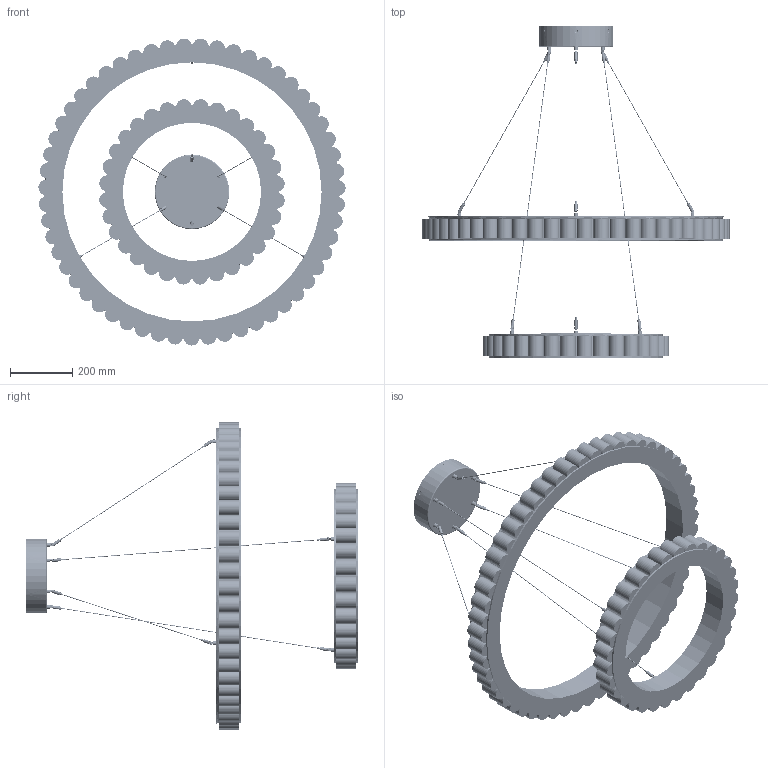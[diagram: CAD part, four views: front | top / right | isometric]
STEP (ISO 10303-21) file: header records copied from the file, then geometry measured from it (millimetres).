
FILE_DESCRIPTION (( 'STEP AP203' ), '1' );
FILE_NAME ('CTO-01-045-02_AVALON Halo chandelier with ceiling rose.STEP', '2021-04-22T11:35:23', ( '' ), ( '' ), 'SwSTEP 2.0', 'SolidWorks 2020', '' );
FILE_SCHEMA (( 'CONFIG_CONTROL_DESIGN' ));
Length unit declared in the file: millimetre
Products named in the file (120): PCTO 06 0028; PCTO 09 0144; PCTO 05 0136; PCTO 01 0146_1000; Gaxaly_Pendant_1000_Lower_Ring_A; Gaxaly_Pendant_1000_Light_Assembly_A_Body only; PCTO 05 0146 Part1; Gaxaly_Pendant_600_Top_Ring_A; PCTO 02 0163_twin top; PCTO 09 0146; PCTO 01 0149; M5 X 15 CS SL_15MM LONG; Gaxaly_Pendant_1000_Top_Ring_A; PCTO 02 0163_Twin bottom; PCTO 05 0145; PCTO 05 0144_M4X8mm; Gaxaly_Pendant_600_Lower_Ring_A; Avalon_Medium_Pendant_Assembly_A_Body only; PCTO 05 0141; PCTO 02 0786_with riv-nuts; Gaxaly_Pendant_600_Rolled_Backing_A; PCTO 02 0785 & PCTO 02 0787_PCTO 02 0787 Twin; PCTO 01 0147; PCTO 01 0146_600; PCTO 05 0146 Part2; PCTO 02 0764; CTO-01-045-02_AVALON Halo chandelier with ceiling rose; Gaxaly_Pendant_1000_Rolled_Backing_A; PCTO 05 0137; M6 x 14 DH SO; PCTO 02 0765; PCTO 02 0793; PCTO 02 0794
Assembly tree (458 placements, depth 4):
  CTO-01-045-02_AVALON Halo chandelier with ceiling rose
    Avalon_Medium_Pendant_Assembly_A_Body only
      PCTO 02 0794
        Gaxaly_Pendant_600_Lower_Ring_A
        Gaxaly_Pendant_600_Rolled_Backing_A
        Gaxaly_Pendant_600_Top_Ring_A
      PCTO 05 0141  x32
      PCTO 09 0146
      PCTO 06 0028
        PCTO 06 0028
        PCTO 05 0137
      PCTO 06 0028
        PCTO 06 0028
        PCTO 05 0137
      PCTO 06 0028
        PCTO 06 0028
        PCTO 05 0137
      PCTO 06 0028
        PCTO 06 0028
        PCTO 05 0137
      PCTO 06 0028
        PCTO 06 0028
        PCTO 05 0137
      PCTO 06 0028
        PCTO 06 0028
        PCTO 05 0137
      PCTO 06 0028
        PCTO 06 0028
        PCTO 05 0137
      PCTO 06 0028
        PCTO 06 0028
        PCTO 05 0137
      PCTO 06 0028
        PCTO 06 0028
        PCTO 05 0137
      PCTO 06 0028
        PCTO 06 0028
        PCTO 05 0137
      PCTO 06 0028
        PCTO 06 0028
        PCTO 05 0137
      PCTO 06 0028
        PCTO 06 0028
        PCTO 05 0137
      PCTO 06 0028
        PCTO 06 0028
        PCTO 05 0137
      PCTO 06 0028
        PCTO 06 0028
        PCTO 05 0137
      PCTO 06 0028
        PCTO 06 0028
        PCTO 05 0137
      PCTO 06 0028
        PCTO 06 0028
        PCTO 05 0137
      PCTO 06 0028
        PCTO 06 0028
        PCTO 05 0137
      PCTO 06 0028
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Bounding box: 989.51 x 1069 x 989.24 mm (x, y, z)
Volume: 17277664.7 mm3; surface area: 4810206.2 mm2
Topology: 367 solids, 367 shells, 12916 faces, 31006 edges, 20097 vertices
Faces by surface type: plane 7281, cylinder 4257, cone 871, bspline 433, torus 74
Entity records: 107337 total; most frequent: CARTESIAN_POINT 27230, DIRECTION 12744, ORIENTED_EDGE 11378, EDGE_CURVE 5689, AXIS2_PLACEMENT_3D 4463, LINE 3818, VECTOR 3818, VERTEX_POINT 3691
